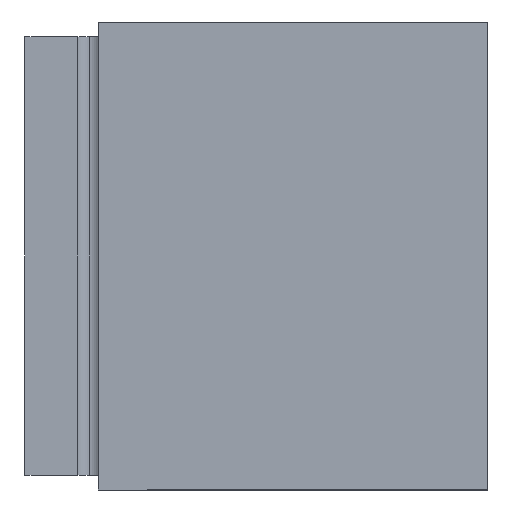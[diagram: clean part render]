
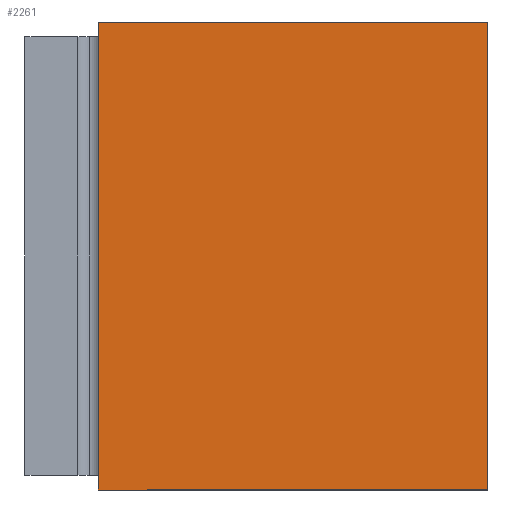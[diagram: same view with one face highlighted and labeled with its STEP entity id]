
A CAD part, left-side view. The second image highlights one B-rep face of the part: STEP entity #2261.
In plain terms, the highlighted planar face has unit normal (-1, 0, 0).
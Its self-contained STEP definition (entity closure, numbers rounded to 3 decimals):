
#31 = EDGE_CURVE ( 'NONE', #411, #2399, #1314, .T. ) ;
#73 = DIRECTION ( 'NONE',  ( 0., 0., -1. ) ) ;
#198 = LINE ( 'NONE', #1064, #3871 ) ;
#379 = ORIENTED_EDGE ( 'NONE', *, *, #6305, .F. ) ;
#411 = VERTEX_POINT ( 'NONE', #5008 ) ;
#999 = LINE ( 'NONE', #1097, #5735 ) ;
#1055 = CARTESIAN_POINT ( 'NONE',  ( -280., 158., -80. ) ) ;
#1064 = CARTESIAN_POINT ( 'NONE',  ( -280., 133., 80. ) ) ;
#1097 = CARTESIAN_POINT ( 'NONE',  ( -280., 0., 80. ) ) ;
#1314 = LINE ( 'NONE', #1351, #1882 ) ;
#1351 = CARTESIAN_POINT ( 'NONE',  ( -280., 158., 80. ) ) ;
#1741 = VERTEX_POINT ( 'NONE', #2310 ) ;
#1838 = VECTOR ( 'NONE', #6051, 1000. ) ;
#1882 = VECTOR ( 'NONE', #5132, 1000. ) ;
#1909 = CARTESIAN_POINT ( 'NONE',  ( -280., 0., -80. ) ) ;
#1935 = AXIS2_PLACEMENT_3D ( 'NONE', #4104, #2641, #6104 ) ;
#2261 = ADVANCED_FACE ( 'NONE', ( #5140 ), #2674, .T. ) ;
#2310 = CARTESIAN_POINT ( 'NONE',  ( -280., 133., -80. ) ) ;
#2399 = VERTEX_POINT ( 'NONE', #3448 ) ;
#2641 = DIRECTION ( 'NONE',  ( -1., 0., 0. ) ) ;
#2674 = PLANE ( 'NONE',  #1935 ) ;
#2989 = ORIENTED_EDGE ( 'NONE', *, *, #4201, .T. ) ;
#3233 = ORIENTED_EDGE ( 'NONE', *, *, #4540, .T. ) ;
#3448 = CARTESIAN_POINT ( 'NONE',  ( -280., 0., 80. ) ) ;
#3871 = VECTOR ( 'NONE', #4092, 1000. ) ;
#4092 = DIRECTION ( 'NONE',  ( 0., 0., -1. ) ) ;
#4104 = CARTESIAN_POINT ( 'NONE',  ( -280., 158., 80. ) ) ;
#4201 = EDGE_CURVE ( 'NONE', #411, #1741, #198, .T. ) ;
#4511 = ORIENTED_EDGE ( 'NONE', *, *, #31, .F. ) ;
#4540 = EDGE_CURVE ( 'NONE', #1741, #4829, #5026, .T. ) ;
#4591 = EDGE_LOOP ( 'NONE', ( #4511, #2989, #3233, #379 ) ) ;
#4829 = VERTEX_POINT ( 'NONE', #1909 ) ;
#5008 = CARTESIAN_POINT ( 'NONE',  ( -280., 133., 80. ) ) ;
#5026 = LINE ( 'NONE', #1055, #1838 ) ;
#5132 = DIRECTION ( 'NONE',  ( 0., -1., 0. ) ) ;
#5140 = FACE_OUTER_BOUND ( 'NONE', #4591, .T. ) ;
#5735 = VECTOR ( 'NONE', #73, 1000. ) ;
#6051 = DIRECTION ( 'NONE',  ( 0., -1., 0. ) ) ;
#6104 = DIRECTION ( 'NONE',  ( 0., 0., 1. ) ) ;
#6305 = EDGE_CURVE ( 'NONE', #2399, #4829, #999, .T. ) ;
